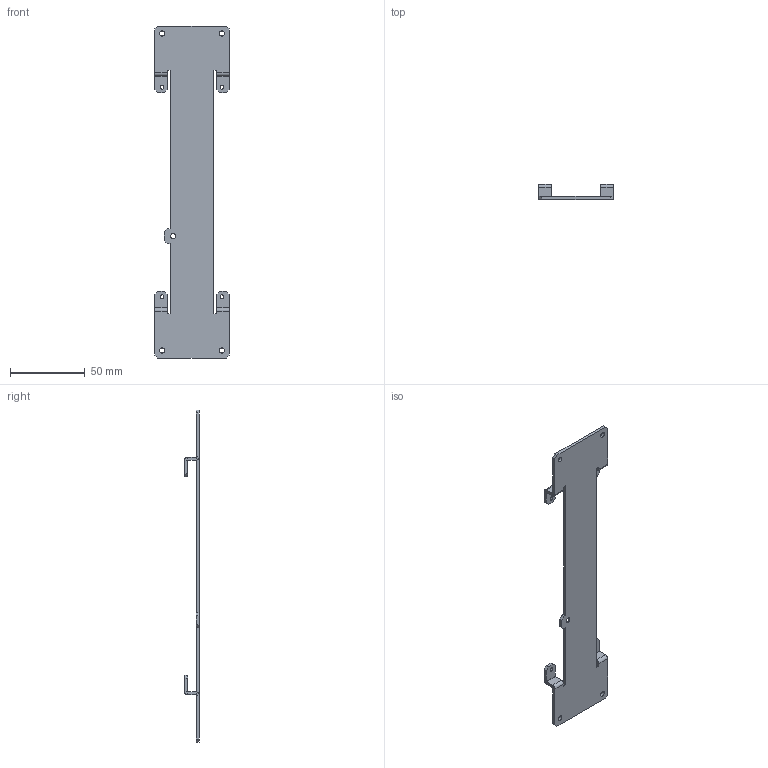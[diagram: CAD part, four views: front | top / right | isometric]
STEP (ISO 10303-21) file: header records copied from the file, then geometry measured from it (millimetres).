
FILE_DESCRIPTION (( 'STEP AP214' ), '1' );
FILE_NAME ('d-17_outline.STEP', '2023-11-06T05:44:19', ( '' ), ( '' ), 'SwSTEP 2.0', 'SolidWorks 2020', '' );
FILE_SCHEMA (( 'AUTOMOTIVE_DESIGN' ));
Length unit declared in the file: millimetre
Products named in the file (1): d-17_outline
Bounding box: 50 x 10 x 222 mm (x, y, z)
Volume: 16728.6 mm3; surface area: 18417.4 mm2
Topology: 1 solids, 1 shells, 190 faces, 483 edges, 300 vertices
Faces by surface type: plane 128, cylinder 34, bspline 26, cone 2
Entity records: 8209 total; most frequent: CARTESIAN_POINT 1616, ORIENTED_EDGE 966, DIRECTION 831, EDGE_CURVE 483, LINE 361, VECTOR 361, VERTEX_POINT 300, AXIS2_PLACEMENT_3D 235
